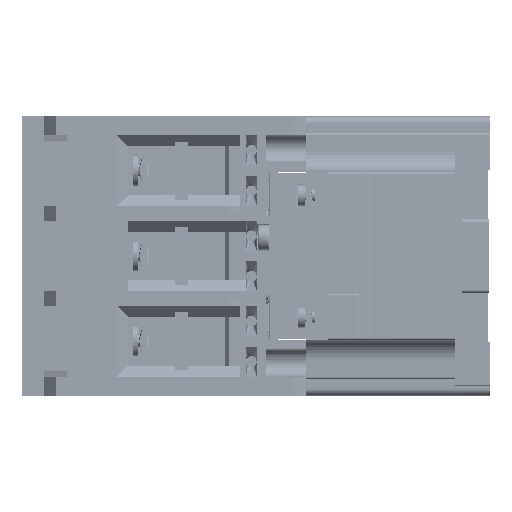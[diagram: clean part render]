
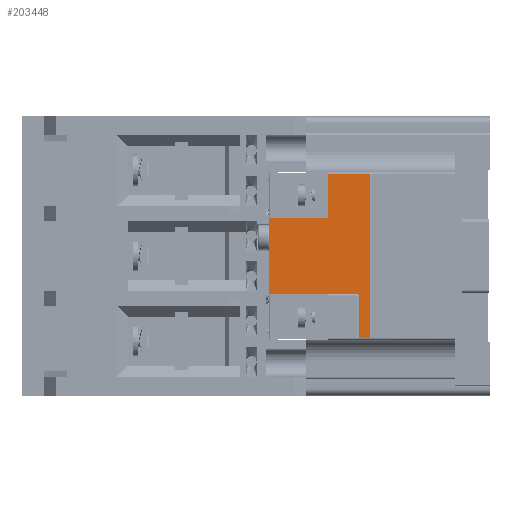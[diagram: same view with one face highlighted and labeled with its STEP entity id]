
A CAD part, left-side view. The second image highlights one B-rep face of the part: STEP entity #203448.
In plain terms, the highlighted planar face has unit normal (-1, 0, 0).
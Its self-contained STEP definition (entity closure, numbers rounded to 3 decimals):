
#9188=DIRECTION('',(0.,-1.,0.));
#9189=VECTOR('',#9188,11.3);
#9190=CARTESIAN_POINT('',(-55.8,18.75,22.));
#9191=LINE('',#9190,#9189);
#9270=DIRECTION('',(0.,-1.,0.));
#9271=VECTOR('',#9270,15.7);
#9272=CARTESIAN_POINT('',(-55.8,34.45,-10.15));
#9273=LINE('',#9272,#9271);
#9274=DIRECTION('',(0.,0.,-1.));
#9275=VECTOR('',#9274,7.1);
#9276=CARTESIAN_POINT('',(-55.8,34.45,8.55));
#9277=LINE('',#9276,#9275);
#9278=DIRECTION('',(0.,0.,-1.));
#9279=VECTOR('',#9278,0.3);
#9280=CARTESIAN_POINT('',(-55.8,18.75,10.45));
#9281=LINE('',#9280,#9279);
#9282=DIRECTION('',(0.,0.,-1.));
#9283=VECTOR('',#9282,11.55);
#9284=CARTESIAN_POINT('',(-55.8,18.75,22.));
#9285=LINE('',#9284,#9283);
#9286=CARTESIAN_POINT('',(-55.8,10.95,-10.65));
#9287=DIRECTION('',(1.,0.,0.));
#9288=DIRECTION('',(0.,0.,1.));
#9289=AXIS2_PLACEMENT_3D('',#9286,#9287,#9288);
#9295=DIRECTION('',(0.,1.,0.));
#9296=VECTOR('',#9295,7.8);
#9297=CARTESIAN_POINT('',(-55.8,10.95,-10.15));
#9298=LINE('',#9297,#9296);
#20327=DIRECTION('',(0.,0.,1.));
#20328=VECTOR('',#20327,1.6);
#20329=CARTESIAN_POINT('',(-55.8,34.45,8.55));
#20330=LINE('',#20329,#20328);
#20463=DIRECTION('',(0.,-1.,0.));
#20464=VECTOR('',#20463,15.7);
#20465=CARTESIAN_POINT('',(-55.8,34.45,10.15));
#20466=LINE('',#20465,#20464);
#26700=DIRECTION('',(0.,0.,1.));
#26701=VECTOR('',#26700,11.6);
#26702=CARTESIAN_POINT('',(-55.8,34.45,-10.15));
#26703=LINE('',#26702,#26701);
#52692=DIRECTION('',(0.,0.,1.));
#52693=VECTOR('',#52692,11.35);
#52694=CARTESIAN_POINT('',(-55.8,10.45,-22.));
#52695=LINE('',#52694,#52693);
#52725=DIRECTION('',(0.,1.,0.));
#52726=VECTOR('',#52725,3.);
#52727=CARTESIAN_POINT('',(-55.8,7.45,-22.));
#52728=LINE('',#52727,#52726);
#52792=DIRECTION('',(0.,0.,-1.));
#52793=VECTOR('',#52792,44.);
#52794=CARTESIAN_POINT('',(-55.8,7.45,22.));
#52795=LINE('',#52794,#52793);
#165953=CARTESIAN_POINT('',(-55.8,34.45,10.15));
#165954=CARTESIAN_POINT('',(-55.8,18.75,10.15));
#165955=VERTEX_POINT('',#165953);
#165956=VERTEX_POINT('',#165954);
#167150=CARTESIAN_POINT('',(-55.8,18.75,-10.15));
#167151=VERTEX_POINT('',#167150);
#167152=CARTESIAN_POINT('',(-55.8,34.45,-10.15));
#167153=VERTEX_POINT('',#167152);
#167467=CARTESIAN_POINT('',(-55.8,18.75,22.));
#167468=VERTEX_POINT('',#167467);
#167469=CARTESIAN_POINT('',(-55.8,7.45,22.));
#167470=VERTEX_POINT('',#167469);
#167485=CARTESIAN_POINT('',(-55.8,7.45,-22.));
#167486=VERTEX_POINT('',#167485);
#167573=CARTESIAN_POINT('',(-55.8,10.45,-22.));
#167574=VERTEX_POINT('',#167573);
#167576=CARTESIAN_POINT('',(-55.8,10.95,-10.15));
#167577=VERTEX_POINT('',#167576);
#167578=CARTESIAN_POINT('',(-55.8,10.45,-10.65));
#167579=VERTEX_POINT('',#167578);
#167580=CARTESIAN_POINT('',(-55.8,18.75,10.45));
#167581=VERTEX_POINT('',#167580);
#167582=CARTESIAN_POINT('',(-55.8,34.45,8.55));
#167583=VERTEX_POINT('',#167582);
#167584=CARTESIAN_POINT('',(-55.8,34.45,1.45));
#167585=VERTEX_POINT('',#167584);
#203417=CARTESIAN_POINT('',(-55.8,18.75,-22.5));
#203418=DIRECTION('',(-1.,0.,0.));
#203419=DIRECTION('',(0.,0.,1.));
#203420=AXIS2_PLACEMENT_3D('',#203417,#203418,#203419);
#203421=PLANE('',#203420);
#203423=ORIENTED_EDGE('',*,*,#203422,.T.);
#203425=ORIENTED_EDGE('',*,*,#203424,.F.);
#203427=ORIENTED_EDGE('',*,*,#203426,.T.);
#203429=ORIENTED_EDGE('',*,*,#203428,.F.);
#203431=ORIENTED_EDGE('',*,*,#203430,.T.);
#203433=ORIENTED_EDGE('',*,*,#203432,.T.);
#203435=ORIENTED_EDGE('',*,*,#203434,.F.);
#203436=ORIENTED_EDGE('',*,*,#203407,.F.);
#203437=ORIENTED_EDGE('',*,*,#203295,.T.);
#203439=ORIENTED_EDGE('',*,*,#203438,.T.);
#203441=ORIENTED_EDGE('',*,*,#203440,.T.);
#203443=ORIENTED_EDGE('',*,*,#203442,.T.);
#203445=ORIENTED_EDGE('',*,*,#203444,.F.);
#203446=EDGE_LOOP('',(#203423,#203425,#203427,#203429,#203431,#203433,#203435,
#203436,#203437,#203439,#203441,#203443,#203445));
#203447=FACE_OUTER_BOUND('',#203446,.F.);
#203448=ADVANCED_FACE('',(#203447),#203421,.T.);
#9290=CIRCLE('',#9289,0.5);
#203295=EDGE_CURVE('',#167468,#167470,#9191,.T.);
#203407=EDGE_CURVE('',#167468,#167581,#9285,.T.);
#203422=EDGE_CURVE('',#167577,#167151,#9298,.T.);
#203424=EDGE_CURVE('',#167153,#167151,#9273,.T.);
#203426=EDGE_CURVE('',#167153,#167585,#26703,.T.);
#203428=EDGE_CURVE('',#167583,#167585,#9277,.T.);
#203430=EDGE_CURVE('',#167583,#165955,#20330,.T.);
#203432=EDGE_CURVE('',#165955,#165956,#20466,.T.);
#203434=EDGE_CURVE('',#167581,#165956,#9281,.T.);
#203438=EDGE_CURVE('',#167470,#167486,#52795,.T.);
#203440=EDGE_CURVE('',#167486,#167574,#52728,.T.);
#203442=EDGE_CURVE('',#167574,#167579,#52695,.T.);
#203444=EDGE_CURVE('',#167577,#167579,#9290,.T.);
